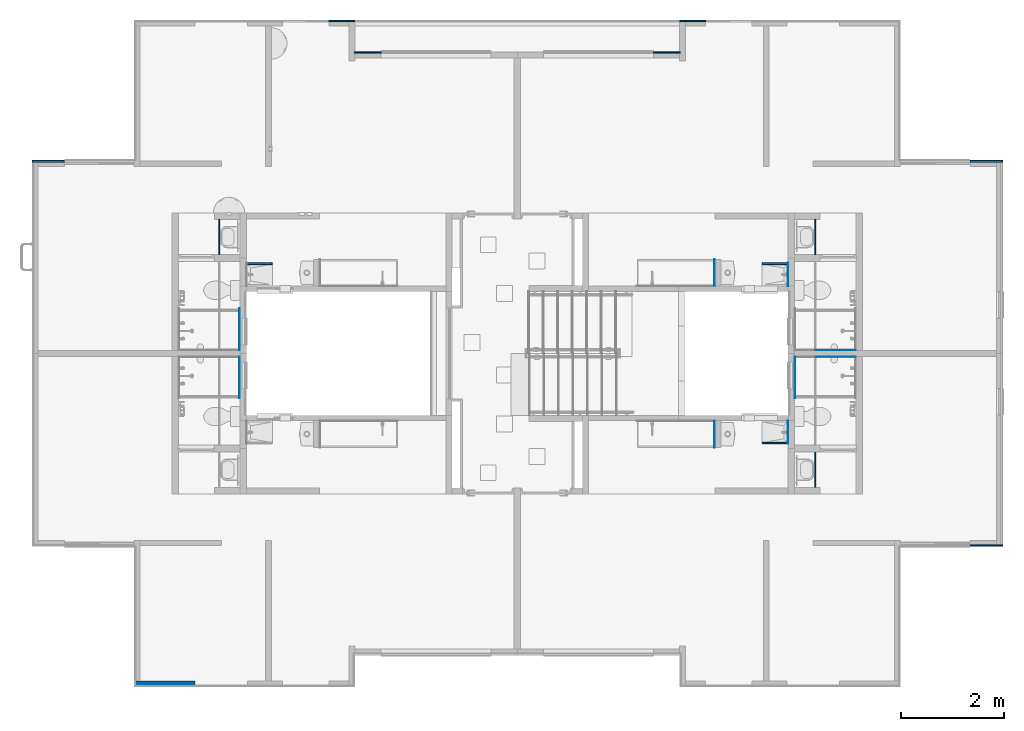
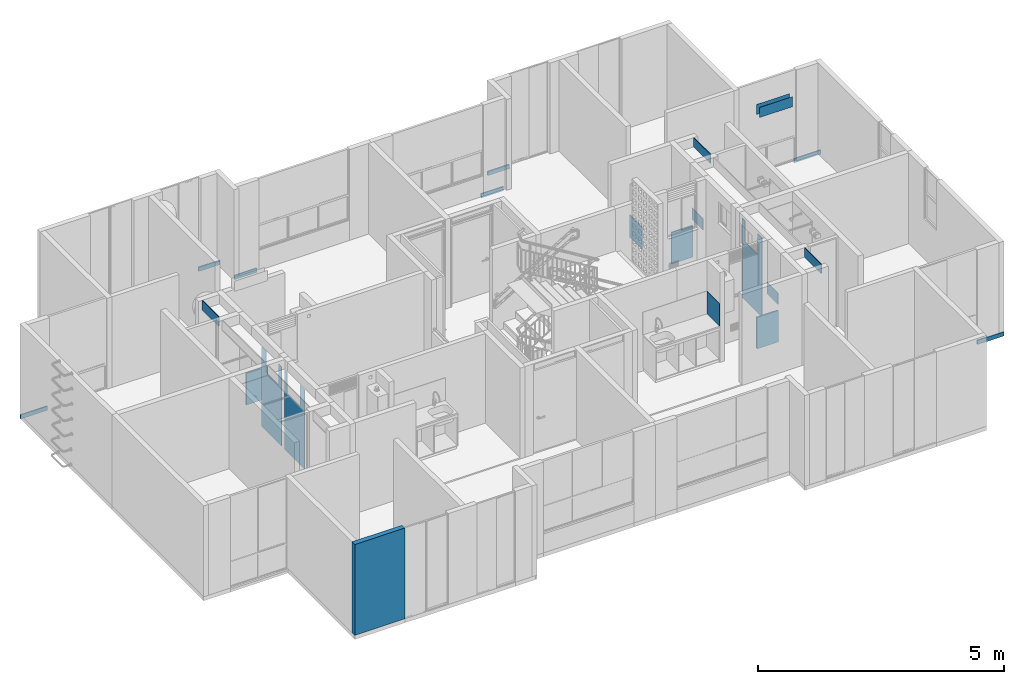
# One storey, part 29 of 51: 23 walls, 4 openings.
"""IFC4 building model written with IfcOpenShell, lengths in metres."""

from ifc_helpers import new_model, entity, si_unit, converted_unit, derived_unit, direction, frame, origin, place, context, subcontext, project, spatial, indexed_curve, outline, extrude, polygons, material, constituent, constituent_set, type_object, element, save


model = new_model("IFC4")

# Units and contexts
model_context = context("Model", 3, precision=1e-05, world=origin(), true_north=direction((6.123031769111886e-17, 1.0)))
body_context = subcontext(model_context, "Body", "Model", "MODEL_VIEW")
ifc_project = project(units=[si_unit("LENGTHUNIT", "METRE"), si_unit("AREAUNIT", "SQUARE_METRE"), si_unit("VOLUMEUNIT", "CUBIC_METRE"), converted_unit("PLANEANGLEUNIT", "DEGREE", entity("IfcRatioMeasure", 0.017453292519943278), si_unit("PLANEANGLEUNIT", "RADIAN"), dimensions=[0, 0, 0, 0, 0, 0, 0]), si_unit("MASSUNIT", "GRAM", prefix="KILO"), derived_unit("MASSDENSITYUNIT", [(si_unit("MASSUNIT", "GRAM", prefix="KILO"), 1), (si_unit("LENGTHUNIT", "METRE"), -3)]), derived_unit("IONCONCENTRATIONUNIT", [(si_unit("MASSUNIT", "GRAM", prefix="KILO"), 1), (si_unit("LENGTHUNIT", "METRE"), -3)]), derived_unit("MOMENTOFINERTIAUNIT", [(si_unit("LENGTHUNIT", "METRE"), 4)]), si_unit("TIMEUNIT", "SECOND"), si_unit("FREQUENCYUNIT", "HERTZ"), si_unit("THERMODYNAMICTEMPERATUREUNIT", "DEGREE_CELSIUS"), derived_unit("THERMALTRANSMITTANCEUNIT", [(si_unit("MASSUNIT", "GRAM", prefix="KILO"), 1), (si_unit("THERMODYNAMICTEMPERATUREUNIT", "KELVIN"), -1), (si_unit("TIMEUNIT", "SECOND"), -3)]), derived_unit("THERMALCONDUCTANCEUNIT", [(si_unit("MASSUNIT", "GRAM", prefix="KILO"), 1), (si_unit("THERMODYNAMICTEMPERATUREUNIT", "KELVIN"), -1), (si_unit("TIMEUNIT", "SECOND"), -3), (si_unit("LENGTHUNIT", "METRE"), 1)]), derived_unit("VOLUMETRICFLOWRATEUNIT", [(si_unit("LENGTHUNIT", "METRE"), 3), (si_unit("TIMEUNIT", "SECOND"), -1)]), derived_unit("MASSFLOWRATEUNIT", [(si_unit("MASSUNIT", "GRAM", prefix="KILO"), 1), (si_unit("TIMEUNIT", "SECOND"), -1)]), derived_unit("ROTATIONALFREQUENCYUNIT", [(si_unit("TIMEUNIT", "SECOND"), -1)]), si_unit("ELECTRICCURRENTUNIT", "AMPERE"), si_unit("ELECTRICVOLTAGEUNIT", "VOLT"), si_unit("POWERUNIT", "WATT"), si_unit("FORCEUNIT", "NEWTON", prefix="KILO"), si_unit("ILLUMINANCEUNIT", "LUX"), si_unit("LUMINOUSFLUXUNIT", "LUMEN"), si_unit("LUMINOUSINTENSITYUNIT", "CANDELA"), derived_unit("USERDEFINED", [(si_unit("MASSUNIT", "GRAM", prefix="KILO"), -1), (si_unit("LENGTHUNIT", "METRE"), -2), (si_unit("TIMEUNIT", "SECOND"), 3), (si_unit("LUMINOUSFLUXUNIT", "LUMEN"), 1)]), derived_unit("USERDEFINED", [(si_unit("MASSUNIT", "GRAM", prefix="KILO"), 1), (si_unit("TIMEUNIT", "SECOND"), -3), (si_unit("LENGTHUNIT", "METRE"), 3), (si_unit("ELECTRICCURRENTUNIT", "AMPERE"), -2)]), derived_unit("SOUNDPOWERUNIT", [(si_unit("MASSUNIT", "GRAM", prefix="KILO"), 1), (si_unit("TIMEUNIT", "SECOND"), -3), (si_unit("LENGTHUNIT", "METRE"), 2)]), derived_unit("SOUNDPRESSUREUNIT", [(si_unit("MASSUNIT", "GRAM", prefix="KILO"), 1), (si_unit("LENGTHUNIT", "METRE"), -1), (si_unit("TIMEUNIT", "SECOND"), -2)]), derived_unit("LINEARVELOCITYUNIT", [(si_unit("LENGTHUNIT", "METRE"), 1), (si_unit("TIMEUNIT", "SECOND"), -1)]), si_unit("PRESSUREUNIT", "PASCAL"), derived_unit("USERDEFINED", [(si_unit("MASSUNIT", "GRAM", prefix="KILO"), 1), (si_unit("LENGTHUNIT", "METRE"), -2), (si_unit("TIMEUNIT", "SECOND"), -2)]), derived_unit("LINEARFORCEUNIT", [(si_unit("MASSUNIT", "GRAM", prefix="KILO"), 1), (si_unit("TIMEUNIT", "SECOND"), -2)]), derived_unit("PLANARFORCEUNIT", [(si_unit("MASSUNIT", "GRAM", prefix="KILO"), 1), (si_unit("LENGTHUNIT", "METRE"), -1), (si_unit("TIMEUNIT", "SECOND"), -2)]), derived_unit("SPECIFICHEATCAPACITYUNIT", [(si_unit("THERMODYNAMICTEMPERATUREUNIT", "KELVIN"), -1), (si_unit("LENGTHUNIT", "METRE"), 2), (si_unit("TIMEUNIT", "SECOND"), -2)]), derived_unit("HEATINGVALUEUNIT", [(si_unit("LENGTHUNIT", "METRE"), 2), (si_unit("TIMEUNIT", "SECOND"), -2)]), derived_unit("VAPORPERMEABILITYUNIT", [(si_unit("LENGTHUNIT", "METRE"), -1), (si_unit("TIMEUNIT", "SECOND"), 1)]), derived_unit("DYNAMICVISCOSITYUNIT", [(si_unit("MASSUNIT", "GRAM", prefix="KILO"), 1), (si_unit("TIMEUNIT", "SECOND"), -1), (si_unit("LENGTHUNIT", "METRE"), -1)]), derived_unit("THERMALEXPANSIONCOEFFICIENTUNIT", [(si_unit("THERMODYNAMICTEMPERATUREUNIT", "KELVIN"), -1)]), derived_unit("MODULUSOFELASTICITYUNIT", [(si_unit("MASSUNIT", "GRAM", prefix="KILO"), 1), (si_unit("LENGTHUNIT", "METRE"), -1), (si_unit("TIMEUNIT", "SECOND"), -2)]), derived_unit("ISOTHERMALMOISTURECAPACITYUNIT", [(si_unit("LENGTHUNIT", "METRE"), 3), (si_unit("MASSUNIT", "GRAM", prefix="KILO"), -1)]), derived_unit("MOISTUREDIFFUSIVITYUNIT", [(si_unit("TIMEUNIT", "SECOND"), -1), (si_unit("LENGTHUNIT", "METRE"), 2)])], contexts=[model_context])

# Site, building, storey
site_placement = place(None, origin())
site = spatial("IfcSite", under=ifc_project, at=site_placement, Name="Default", CompositionType="ELEMENT")
building_placement = place(site_placement, origin())
building = spatial("IfcBuilding", under=site, at=building_placement, CompositionType="ELEMENT")
storey_placement = place(building_placement, frame((0.0, 0.0, 2.350000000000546)))
storey = spatial("IfcBuildingStorey", under=building, at=storey_placement, Name="Nivel 2", CompositionType="ELEMENT", Elevation=2.350000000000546)

# Wall, opening
ifc_material_1 = material(Name="LADRILLO CLARO", Category="Materials")
wall_type_1 = type_object("IfcWallType", Name="Basic Wall:B2010 - 0.115m - ME mampostería no estructural - Ladrillo", PredefinedType="STANDARD")
wall_1_placement = place(storey_placement, frame((3.091699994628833, -12.812500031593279, 0.0), z_axis=(0.0, 0.0, 1.0), x_axis=(-1.0, 0.0, 0.0)))
wall_1 = element("IfcWall", 1, at=wall_1_placement, inside=storey, type_object=wall_type_1, material=ifc_material_1, Name="Basic Wall:B2010 - 0.115m - ME mampostería no estructural - Ladrillo", ObjectType="Basic Wall:B2010 - 0.115m - ME mampostería no estructural - Ladrillo", PredefinedType="NOTDEFINED", context=body_context, shape_type="Tessellation", body=[
    polygons([(1.0862894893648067e-16, -0.057499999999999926, 0.0), (1.1741999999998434, -0.057499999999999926, 0.0), (1.1741999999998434, -0.057499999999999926, 2.2500000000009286), (1.0862894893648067e-16, -0.057499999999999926, 2.2500000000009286), (-5.298817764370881e-16, 0.057499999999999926, 0.0), (-5.298817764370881e-16, 0.057499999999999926, 2.2500000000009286), (1.1741999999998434, 0.057499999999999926, 2.2500000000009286), (1.1741999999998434, 0.057499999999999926, 0.0)], [[[1, 2, 3, 4]], [[5, 6, 7, 8]], [[2, 1, 5, 8]], [[3, 2, 8, 7]], [[4, 3, 7, 6]], [[1, 4, 6, 5]]], closed=True),
])
opening_1_placement = place(wall_1_placement, origin())
element("IfcOpeningElement", 2, at=opening_1_placement, cuts=wall_1, Name="Basic Wall:B2010 - 0.115m - ME mampostería no estructural - Ladrillo", PredefinedType="OPENING", context=body_context, shape_type="SweptSolid", body=[
    extrude(outline(indexed_curve([(-0.5099999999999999, -1.1249999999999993), (0.5099999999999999, -1.1249999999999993), (0.5099999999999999, 1.1249999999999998), (-0.5099999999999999, 1.1249999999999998), (-0.5099999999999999, -1.1249999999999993)], self_intersect=False)), frame((-0.5099999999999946, -1.581499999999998, 1.1250000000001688), z_axis=(0.0, 1.0, 0.0), x_axis=(-1.0, 0.0, 0.0)), (0.0, 0.0, 1.0), 3.048),
])

ifc_material_2 = material(Name="Ceramica 0.25m x 0.35m", Category="Materials")
wall_type_2 = type_object("IfcWallType", Name="Basic Wall:C2010 - 0.25 x 0.35 - Enchape cerámico", PredefinedType="STANDARD")
wall_2_placement = place(storey_placement, frame((3.9574999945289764, -6.365000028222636, 0.03000000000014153), z_axis=(0.0, 0.0, 1.0), x_axis=(0.0, 1.0, 0.0)))
wall_2 = element("IfcWall", 3, at=wall_2_placement, inside=storey, type_object=wall_type_2, material=ifc_material_2, Name="Basic Wall:C2010 - 0.25 x 0.35 - Enchape cerámico", ObjectType="Basic Wall:C2010 - 0.25 x 0.35 - Enchape cerámico", PredefinedType="NOTDEFINED", context=body_context, shape_type="Tessellation", body=[
    polygons([(0.0, -0.0049999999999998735, 5.414335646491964e-16), (0.8099999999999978, -0.00499999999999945, 5.414335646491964e-16), (0.8099999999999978, -0.00499999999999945, 1.9700000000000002), (0.6309543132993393, -0.00500000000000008, 1.9700000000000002), (0.6309543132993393, -0.00500000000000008, 1.4500000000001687), (0.11095431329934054, -0.00499999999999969, 1.4500000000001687), (0.11095431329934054, -0.00499999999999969, 1.9699999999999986), (0.0, -0.0049999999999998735, 1.9699999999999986), (0.0, 0.005000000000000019, 5.414335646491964e-16), (0.0, 0.005000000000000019, 1.9699999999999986), (0.009999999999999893, 0.005000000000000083, 1.969999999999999), (0.11095431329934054, 0.005000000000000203, 1.9699999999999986), (0.11095431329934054, 0.005000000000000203, 1.4500000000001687), (0.6309543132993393, 0.004999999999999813, 1.4500000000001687), (0.6309543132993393, 0.004999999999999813, 1.9700000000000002), (0.8099999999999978, 0.004999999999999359, 1.9700000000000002), (0.8099999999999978, 0.004999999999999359, 5.414335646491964e-16), (0.009999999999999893, 0.005000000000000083, 2.707167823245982e-16)], [[[1, 2, 3, 4, 5, 6, 7, 8]], [[9, 10, 11, 12, 13, 14, 15, 16, 17, 18]], [[2, 1, 9, 18, 17]], [[3, 2, 17, 16]], [[4, 3, 16, 15]], [[5, 4, 15, 14]], [[6, 5, 14, 13]], [[7, 6, 13, 12]], [[8, 7, 12, 11, 10]], [[1, 8, 10, 9]]], closed=True),
])
opening_2_placement = place(wall_2_placement, origin())
element("IfcOpeningElement", 4, at=opening_2_placement, cuts=wall_2, Name="Basic Wall:C2010 - 0.25 x 0.35 - Enchape cerámico", PredefinedType="OPENING", context=body_context, shape_type="SweptSolid", body=[
    extrude(outline(indexed_curve([(-0.2599999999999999, -0.25999999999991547), (0.25999999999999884, -0.25999999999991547), (0.2599999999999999, 0.25999999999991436), (-0.25999999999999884, 0.25999999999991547), (-0.2599999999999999, -0.25999999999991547)], self_intersect=False)), frame((0.3709543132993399, 0.004999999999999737, 1.7100000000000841), z_axis=(0.0, -1.0, 0.0), x_axis=(-1.0, 0.0, 0.0)), (0.0, 0.0, 1.0), 0.01),
])

wall_3_placement = place(storey_placement, frame((3.957499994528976, -6.485000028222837, 0.03000000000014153), z_axis=(0.0, 0.0, 1.0), x_axis=(0.0, -1.0, 0.0)))
wall_3 = element("IfcWall", 5, at=wall_3_placement, inside=storey, type_object=wall_type_2, material=ifc_material_2, Name="Basic Wall:C2010 - 0.25 x 0.35 - Enchape cerámico", ObjectType="Basic Wall:C2010 - 0.25 x 0.35 - Enchape cerámico", PredefinedType="NOTDEFINED", context=body_context, shape_type="Tessellation", body=[
    polygons([(0.0, -0.0049999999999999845, 5.414335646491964e-16), (0.009999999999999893, -0.004999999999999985, 2.707167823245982e-16), (0.8099999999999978, -0.005000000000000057, 5.414335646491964e-16), (0.8099999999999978, -0.005000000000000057, 1.9700000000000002), (0.6309543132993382, -0.00500000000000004, 1.9700000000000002), (0.6309543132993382, -0.00500000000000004, 1.4500000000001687), (0.11095431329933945, -0.004999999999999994, 1.4500000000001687), (0.11095431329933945, -0.004999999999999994, 1.9699999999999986), (0.009999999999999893, -0.004999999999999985, 1.969999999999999), (0.0, -0.0049999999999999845, 1.9699999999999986), (0.0, 0.004999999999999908, 5.414335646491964e-16), (0.0, 0.004999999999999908, 1.9699999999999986), (0.11095431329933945, 0.004999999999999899, 1.9699999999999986), (0.11095431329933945, 0.004999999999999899, 1.4500000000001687), (0.6309543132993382, 0.004999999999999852, 1.4500000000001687), (0.6309543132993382, 0.004999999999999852, 1.9700000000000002), (0.8099999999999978, 0.004999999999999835, 1.9700000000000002), (0.8099999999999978, 0.004999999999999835, 5.414335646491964e-16)], [[[1, 2, 3, 4, 5, 6, 7, 8, 9, 10]], [[11, 12, 13, 14, 15, 16, 17, 18]], [[3, 2, 1, 11, 18]], [[4, 3, 18, 17]], [[5, 4, 17, 16]], [[6, 5, 16, 15]], [[7, 6, 15, 14]], [[8, 7, 14, 13]], [[10, 9, 8, 13, 12]], [[1, 10, 12, 11]]], closed=True),
])
opening_3_placement = place(wall_3_placement, origin())
element("IfcOpeningElement", 6, at=opening_3_placement, cuts=wall_3, Name="Basic Wall:C2010 - 0.25 x 0.35 - Enchape cerámico", PredefinedType="OPENING", context=body_context, shape_type="SweptSolid", body=[
    extrude(outline(indexed_curve([(-0.2599999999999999, -0.25999999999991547), (0.25999999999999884, -0.25999999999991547), (0.2599999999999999, 0.25999999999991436), (-0.25999999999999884, 0.25999999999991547), (-0.2599999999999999, -0.25999999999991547)], self_intersect=False)), frame((0.3709543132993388, 0.004999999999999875, 1.7100000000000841), z_axis=(0.0, -1.0, 0.0), x_axis=(-1.0, 0.0, 0.0)), (0.0, 0.0, 1.0), 0.01),
])

wall_4_placement = place(storey_placement, frame((14.687500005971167, -6.485000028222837, 0.03000000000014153), z_axis=(0.0, 0.0, 1.0), x_axis=(0.0, -1.0, 0.0)))
wall_4 = element("IfcWall", 7, at=wall_4_placement, inside=storey, type_object=wall_type_2, material=ifc_material_2, Name="Basic Wall:C2010 - 0.25 x 0.35 - Enchape cerámico", ObjectType="Basic Wall:C2010 - 0.25 x 0.35 - Enchape cerámico", PredefinedType="NOTDEFINED", context=body_context, shape_type="Tessellation", body=[
    polygons([(0.0, -0.004999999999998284, 5.414335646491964e-16), (0.8099999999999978, -0.004999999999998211, 5.414335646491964e-16), (0.8099999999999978, -0.004999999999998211, 1.9700000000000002), (0.6309543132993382, -0.004999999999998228, 1.9700000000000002), (0.6309543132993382, -0.004999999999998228, 1.4500000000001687), (0.11095431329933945, -0.004999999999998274, 1.4500000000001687), (0.11095431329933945, -0.004999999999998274, 1.9699999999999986), (0.0, -0.004999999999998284, 1.9699999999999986), (0.0, 0.005000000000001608, 5.414335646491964e-16), (0.0, 0.005000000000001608, 1.9699999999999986), (0.009999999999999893, 0.00500000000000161, 1.969999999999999), (0.11095431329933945, 0.005000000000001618, 1.9699999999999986), (0.11095431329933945, 0.005000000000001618, 1.4500000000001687), (0.6309543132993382, 0.005000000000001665, 1.4500000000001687), (0.6309543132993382, 0.005000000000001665, 1.9700000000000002), (0.8099999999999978, 0.005000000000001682, 1.9700000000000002), (0.8099999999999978, 0.005000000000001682, 5.414335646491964e-16), (0.009999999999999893, 0.00500000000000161, 2.707167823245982e-16)], [[[1, 2, 3, 4, 5, 6, 7, 8]], [[9, 10, 11, 12, 13, 14, 15, 16, 17, 18]], [[2, 1, 9, 18, 17]], [[3, 2, 17, 16]], [[4, 3, 16, 15]], [[5, 4, 15, 14]], [[6, 5, 14, 13]], [[7, 6, 13, 12]], [[8, 7, 12, 11, 10]], [[1, 8, 10, 9]]], closed=True),
])
opening_4_placement = place(wall_4_placement, origin())
element("IfcOpeningElement", 8, at=opening_4_placement, cuts=wall_4, Name="Basic Wall:C2010 - 0.25 x 0.35 - Enchape cerámico", PredefinedType="OPENING", context=body_context, shape_type="SweptSolid", body=[
    extrude(outline(indexed_curve([(-0.2599999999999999, -0.25999999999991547), (0.25999999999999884, -0.25999999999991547), (0.2599999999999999, 0.25999999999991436), (-0.25999999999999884, 0.25999999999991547), (-0.2599999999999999, -0.25999999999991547)], self_intersect=False)), frame((0.3709543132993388, 0.005000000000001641, 1.7100000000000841), z_axis=(0.0, -1.0, 0.0), x_axis=(-1.0, 0.0, 0.0)), (0.0, 0.0, 1.0), 0.01),
])

# Walls
ifc_material_3 = material(Name="Plasterboard", Category="Materials")
wall_type_3 = type_object("IfcWallType", Name="Basic Wall:C1070 - 0.02m - Plafón - Drywall", PredefinedType="STANDARD")
wall_5_placement = place(storey_placement, frame((3.5624999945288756, -4.515000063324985, 2.020000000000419), z_axis=(0.0, 0.0, 1.0), x_axis=(0.0, 1.0, 0.0)))
element("IfcWall", 9, at=wall_5_placement, inside=storey, type_object=wall_type_3, material=ifc_material_3, Name="Basic Wall:C1070 - 0.02m - Plafón - Drywall", ObjectType="Basic Wall:C1070 - 0.02m - Plafón - Drywall", PredefinedType="NOTDEFINED", context=body_context, shape_type="SweptSolid", body=[
    extrude(outline(indexed_curve([(0.6800000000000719, 0.009999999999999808), (8.086221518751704e-17, 0.009999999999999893), (-8.086221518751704e-17, -0.009999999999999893), (0.6800000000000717, -0.009999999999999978), (0.6800000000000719, 0.009999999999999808)], self_intersect=False)), origin(), (0.0, 0.0, 1.0), 0.23000000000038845),
])
wall_6_placement = place(storey_placement, frame((15.082500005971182, -4.515000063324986, 2.020000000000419), z_axis=(0.0, 0.0, 1.0), x_axis=(0.0, 1.0, 0.0)))
element("IfcWall", 10, at=wall_6_placement, inside=storey, type_object=wall_type_3, material=ifc_material_3, Name="Basic Wall:C1070 - 0.02m - Plafón - Drywall", ObjectType="Basic Wall:C1070 - 0.02m - Plafón - Drywall", PredefinedType="NOTDEFINED", context=body_context, shape_type="SweptSolid", body=[
    extrude(outline(indexed_curve([(0.6800000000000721, 0.01000000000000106), (-8.086221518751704e-17, 0.009999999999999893), (8.086221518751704e-17, -0.009999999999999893), (0.6800000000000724, -0.009999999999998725), (0.6800000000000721, 0.01000000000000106)], self_intersect=False)), origin(), (0.0, 0.0, 1.0), 0.23000000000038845),
])
wall_7_placement = place(storey_placement, frame((15.082500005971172, -8.334999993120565, 2.020000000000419), z_axis=(0.0, 0.0, 1.0), x_axis=(0.0, -1.0, 0.0)))
element("IfcWall", 11, at=wall_7_placement, inside=storey, type_object=wall_type_3, material=ifc_material_3, Name="Basic Wall:C1070 - 0.02m - Plafón - Drywall", ObjectType="Basic Wall:C1070 - 0.02m - Plafón - Drywall", PredefinedType="NOTDEFINED", context=body_context, shape_type="SweptSolid", body=[
    extrude(outline(indexed_curve([(0.6800000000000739, 0.009999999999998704), (1.74650790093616e-17, 0.009999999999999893), (-1.74650790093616e-17, -0.009999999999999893), (0.6800000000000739, -0.010000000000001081), (0.6800000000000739, 0.009999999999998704)], self_intersect=False)), origin(), (0.0, 0.0, 1.0), 0.23000000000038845),
])
ifc_material_4 = material(Name="Ceramica Salpicadero 0.28m x 0.45m", Category="Materials")
wall_type_4 = type_object("IfcWallType", Name="Basic Wall:C2010 - 0.28 x 0.45 - Salpicadero - Cerámica", PredefinedType="STANDARD")
wall_8_placement = place(storey_placement, frame((14.55250000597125, -4.67500002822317, 0.929999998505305), z_axis=(0.0, 0.0, 1.0), x_axis=(0.0, -1.0, 0.0)))
element("IfcWall", 12, at=wall_8_placement, inside=storey, type_object=wall_type_4, material=ifc_material_4, Name="Basic Wall:C2010 - 0.28 x 0.45 - Salpicadero - Cerámica", ObjectType="Basic Wall:C2010 - 0.28 x 0.45 - Salpicadero - Cerámica", PredefinedType="NOTDEFINED", context=body_context, shape_type="SweptSolid", body=[
    extrude(outline(indexed_curve([(0.4494999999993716, 0.005000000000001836), (8.738326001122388e-17, 0.005000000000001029), (-8.738326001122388e-17, -0.005000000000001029), (0.44949999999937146, -0.005000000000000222), (0.4494999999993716, 0.005000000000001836)], self_intersect=False)), origin(), (0.0, 0.0, 1.0), 0.28000000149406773),
])
wall_9_placement = place(storey_placement, frame((14.55250000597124, -8.175000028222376, 0.929999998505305), z_axis=(0.0, 0.0, 1.0), x_axis=(0.0, 1.0, 0.0)))
element("IfcWall", 13, at=wall_9_placement, inside=storey, type_object=wall_type_4, material=ifc_material_4, Name="Basic Wall:C2010 - 0.28 x 0.45 - Salpicadero - Cerámica", ObjectType="Basic Wall:C2010 - 0.28 x 0.45 - Salpicadero - Cerámica", PredefinedType="NOTDEFINED", context=body_context, shape_type="SweptSolid", body=[
    extrude(outline(indexed_curve([(0.4494999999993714, 0.005000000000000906), (-1.1908182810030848e-16, 0.005000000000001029), (1.1908182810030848e-16, -0.005000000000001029), (0.4494999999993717, -0.005000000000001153), (0.4494999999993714, 0.005000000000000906)], self_intersect=False)), origin(), (0.0, 0.0, 1.0), 0.28000000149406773),
])
wall_10_placement = place(storey_placement, frame((13.13750000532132, -4.605000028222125, 0.9299999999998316), z_axis=(0.0, 0.0, 1.0), x_axis=(0.0, -1.0, 0.0)))
element("IfcWall", 14, at=wall_10_placement, inside=storey, type_object=wall_type_4, material=ifc_material_4, Name="Basic Wall:C2010 - 0.28 x 0.45 - Salpicadero - Cerámica", ObjectType="Basic Wall:C2010 - 0.28 x 0.45 - Salpicadero - Cerámica", PredefinedType="NOTDEFINED", context=body_context, shape_type="SweptSolid", body=[
    extrude(outline(indexed_curve([(0.5100000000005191, 0.0050000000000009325), (2.2179403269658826e-17, 0.005000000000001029), (-2.2179403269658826e-17, -0.005000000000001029), (0.5100000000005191, -0.005000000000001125), (0.5100000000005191, 0.0050000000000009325)], self_intersect=False)), origin(), (0.0, 0.0, 1.0), 0.5599999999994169),
])
wall_11_placement = place(storey_placement, frame((13.137500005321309, -8.245000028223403, 0.9299999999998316), z_axis=(0.0, 0.0, 1.0), x_axis=(0.0, 1.0, 0.0)))
element("IfcWall", 15, at=wall_11_placement, inside=storey, type_object=wall_type_4, material=ifc_material_4, Name="Basic Wall:C2010 - 0.28 x 0.45 - Salpicadero - Cerámica", ObjectType="Basic Wall:C2010 - 0.28 x 0.45 - Salpicadero - Cerámica", PredefinedType="NOTDEFINED", context=body_context, shape_type="SweptSolid", body=[
    extrude(outline(indexed_curve([(0.5100000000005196, 0.00499999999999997), (-5.3311001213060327e-17, 0.005000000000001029), (5.3311001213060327e-17, -0.005000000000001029), (0.5100000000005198, -0.005000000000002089), (0.5100000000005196, 0.00499999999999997)], self_intersect=False)), origin(), (0.0, 0.0, 1.0), 0.5599999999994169),
])
ifc_material_5 = material(Name="Estuco y pintura", Category="Materials")
ifc_constituent_1 = constituent(ifc_material_5, Name="Estuco y pintura", Category="Materials")
ifc_material_6 = material(Name="0 muro divisorio", Category="Materials")
ifc_constituent_2 = constituent(ifc_material_6, Name="0 muro divisorio", Category="Materials")
ifc_constituent_3 = constituent(ifc_material_5, Name="Estuco y pintura (2)", Category="Materials")
ifc_constituent_set = constituent_set(constituents=[ifc_constituent_1, ifc_constituent_2, ifc_constituent_3], Name="Basic Wall:B2010 - 0.03m - Muro interior en estuco+pintura+ concreto+ estuco+ pintura")
wall_type_5 = type_object("IfcWallType", Name="Basic Wall:B2010 - 0.03m - Muro interior en estuco+pintura+ concreto+ estuco+ pintura", PredefinedType="STANDARD", material=ifc_constituent_set)
wall_12_placement = place(storey_placement, frame((4.087499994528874, -4.6920000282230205, 0.0)))
element("IfcWall", 16, at=wall_12_placement, inside=storey, type_object=wall_type_5, material=ifc_constituent_set, Name="Basic Wall:B2010 - 0.03m - Muro interior en estuco+pintura+ concreto+ estuco+ pintura", ObjectType="Basic Wall:B2010 - 0.03m - Muro interior en estuco+pintura+ concreto+ estuco+ pintura", PredefinedType="NOTDEFINED", context=body_context, shape_type="SweptSolid", body=[
    extrude(outline(indexed_curve([(-0.0009999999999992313, -0.25000023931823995), (0.0010000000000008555, -0.25000023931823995), (0.0009999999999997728, 0.2500002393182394), (-0.001000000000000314, 0.2500002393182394), (-0.0009999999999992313, -0.25000023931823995)], self_intersect=False)), frame((0.25000023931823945, -0.016000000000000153, 0.0), z_axis=(0.0, 0.0, 1.0), x_axis=(0.0, 1.0, 0.0)), (0.0, 0.0, 1.0), 0.7799999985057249),
    extrude(outline(indexed_curve([(-0.0009999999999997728, -0.25000023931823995), (0.001000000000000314, -0.25000023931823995), (0.0009999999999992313, 0.2500002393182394), (-0.0010000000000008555, 0.2500002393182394), (-0.0009999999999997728, -0.25000023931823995)], self_intersect=False)), frame((0.25000023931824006, 0.015999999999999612, 0.0), z_axis=(0.0, 0.0, 1.0), x_axis=(0.0, -1.0, 0.0)), (0.0, 0.0, 1.0), 0.7799999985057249),
    extrude(outline(indexed_curve([(-0.25000023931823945, -0.01500000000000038), (0.2500002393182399, -0.01500000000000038), (0.25000023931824, 0.014999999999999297), (-0.2500002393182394, 0.014999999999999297), (-0.25000023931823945, -0.01500000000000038)], self_intersect=False)), frame((0.25000023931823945, 0.0, 0.0)), (0.0, 0.0, 1.0), 0.7799999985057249),
])
wall_13_placement = place(storey_placement, frame((14.557500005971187, -4.6920000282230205, 0.0), z_axis=(0.0, 0.0, 1.0), x_axis=(-1.0, 0.0, 0.0)))
element("IfcWall", 17, at=wall_13_placement, inside=storey, type_object=wall_type_5, material=ifc_constituent_set, Name="Basic Wall:B2010 - 0.03m - Muro interior en estuco+pintura+ concreto+ estuco+ pintura", ObjectType="Basic Wall:B2010 - 0.03m - Muro interior en estuco+pintura+ concreto+ estuco+ pintura", PredefinedType="NOTDEFINED", context=body_context, shape_type="SweptSolid", body=[
    extrude(outline(indexed_curve([(-0.0010000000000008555, -0.25000023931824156), (0.0009999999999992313, -0.25000023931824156), (0.001000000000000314, 0.2500002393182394), (-0.0009999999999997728, 0.2500002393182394), (-0.0010000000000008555, -0.25000023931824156)], self_intersect=False)), frame((0.25000023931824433, 0.015999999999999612, 0.0), z_axis=(0.0, 0.0, 1.0), x_axis=(0.0, -1.0, 0.0)), (0.0, 0.0, 1.0), 0.7799999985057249),
    extrude(outline(indexed_curve([(-0.001000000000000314, -0.25000023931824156), (0.0009999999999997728, -0.25000023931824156), (0.0010000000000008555, 0.25000023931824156), (-0.0009999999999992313, 0.25000023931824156), (-0.001000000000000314, -0.25000023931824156)], self_intersect=False)), frame((0.2500002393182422, -0.016000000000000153, 0.0), z_axis=(0.0, 0.0, 1.0), x_axis=(0.0, 1.0, 0.0)), (0.0, 0.0, 1.0), 0.7799999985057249),
    extrude(outline(indexed_curve([(-0.25000023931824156, -0.01500000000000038), (0.2500002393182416, -0.01500000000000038), (0.25000023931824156, 0.014999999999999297), (-0.25000023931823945, 0.014999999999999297), (-0.25000023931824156, -0.01500000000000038)], self_intersect=False)), frame((0.25000023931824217, 0.0, 0.0)), (0.0, 0.0, 1.0), 0.7799999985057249),
])
wall_14_placement = place(storey_placement, frame((14.557500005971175, -8.158000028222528, 0.0), z_axis=(0.0, 0.0, 1.0), x_axis=(-1.0, 0.0, 0.0)))
element("IfcWall", 18, at=wall_14_placement, inside=storey, type_object=wall_type_5, material=ifc_constituent_set, Name="Basic Wall:B2010 - 0.03m - Muro interior en estuco+pintura+ concreto+ estuco+ pintura", ObjectType="Basic Wall:B2010 - 0.03m - Muro interior en estuco+pintura+ concreto+ estuco+ pintura", PredefinedType="NOTDEFINED", context=body_context, shape_type="SweptSolid", body=[
    extrude(outline(indexed_curve([(-0.0010000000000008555, -0.2500002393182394), (0.0009999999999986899, -0.2500002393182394), (0.0010000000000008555, 0.2500002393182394), (-0.0009999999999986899, 0.2500002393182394), (-0.0010000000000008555, -0.2500002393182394)], self_intersect=False)), frame((0.25000023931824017, -0.015999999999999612, 0.0), z_axis=(0.0, 0.0, 1.0), x_axis=(0.0, 1.0, 0.0)), (0.0, 0.0, 1.0), 0.7799999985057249),
    extrude(outline(indexed_curve([(-0.0010000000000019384, -0.2500002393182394), (0.0009999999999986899, -0.2500002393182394), (0.0010000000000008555, 0.2500002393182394), (-0.0009999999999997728, 0.2500002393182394), (-0.0010000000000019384, -0.2500002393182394)], self_intersect=False)), frame((0.25000023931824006, 0.015999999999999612, 0.0), z_axis=(0.0, 0.0, 1.0), x_axis=(0.0, -1.0, 0.0)), (0.0, 0.0, 1.0), 0.7799999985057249),
    extrude(outline(indexed_curve([(-0.25000023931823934, -0.014999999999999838), (0.25000023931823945, -0.014999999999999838), (0.25000023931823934, 0.014999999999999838), (-0.25000023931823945, 0.014999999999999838), (-0.25000023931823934, -0.014999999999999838)], self_intersect=False)), frame((0.2500002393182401, 0.0, 0.0)), (0.0, 0.0, 1.0), 0.7799999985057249),
])
wall_type_6 = type_object("IfcWallType", Name="Basic Wall:B2010 - 0.03m - ME enchape  no estructural - Ladrillo", PredefinedType="STANDARD")
wall_15_placement = place(storey_placement, frame((6.182499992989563, 0.004999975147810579, -0.10000000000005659), z_axis=(0.0, 0.0, 1.0), x_axis=(-1.0, 0.0, 0.0)))
element("IfcWall", 19, at=wall_15_placement, inside=storey, type_object=wall_type_6, material=ifc_material_1, Name="Basic Wall:B2010 - 0.03m - ME enchape  no estructural - Ladrillo", ObjectType="Basic Wall:B2010 - 0.03m - ME enchape  no estructural - Ladrillo", PredefinedType="NOTDEFINED", context=body_context, shape_type="SweptSolid", body=[
    extrude(outline(indexed_curve([(0.49999999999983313, 0.015000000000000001), (-1.4243869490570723e-16, 0.015), (1.4243869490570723e-16, -0.015), (0.4999999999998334, -0.014999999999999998), (0.49999999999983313, 0.015000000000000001)], self_intersect=False)), origin(), (0.0, 0.0, 1.0), 0.1),
])
wall_16_placement = place(storey_placement, frame((-0.05749999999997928, -2.710000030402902, -0.10000000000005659)))
element("IfcWall", 20, at=wall_16_placement, inside=storey, type_object=wall_type_6, material=ifc_material_1, Name="Basic Wall:B2010 - 0.03m - ME enchape  no estructural - Ladrillo", ObjectType="Basic Wall:B2010 - 0.03m - ME enchape  no estructural - Ladrillo", PredefinedType="NOTDEFINED", context=body_context, shape_type="SweptSolid", body=[
    extrude(outline(indexed_curve([(0.6249999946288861, 0.014999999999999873), (2.443197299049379e-18, 0.014999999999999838), (-2.443197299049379e-18, -0.014999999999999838), (0.6249999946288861, -0.014999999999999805), (0.6249999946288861, 0.014999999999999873)], self_intersect=False)), origin(), (0.0, 0.0, 1.0), 0.1),
])
wall_17_placement = place(storey_placement, frame((12.462499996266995, 0.004999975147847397, -0.10000000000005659)))
element("IfcWall", 21, at=wall_17_placement, inside=storey, type_object=wall_type_6, material=ifc_material_1, Name="Basic Wall:B2010 - 0.03m - ME enchape  no estructural - Ladrillo", ObjectType="Basic Wall:B2010 - 0.03m - ME enchape  no estructural - Ladrillo", PredefinedType="NOTDEFINED", context=body_context, shape_type="SweptSolid", body=[
    extrude(outline(indexed_curve([(0.5000000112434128, 0.015000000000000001), (4.3864338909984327e-17, 0.015), (-4.3864338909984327e-17, -0.015), (0.5000000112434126, -0.015), (0.5000000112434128, 0.015000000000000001)], self_intersect=False)), origin(), (0.0, 0.0, 1.0), 0.1),
])
wall_18_placement = place(storey_placement, frame((18.702500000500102, -2.710000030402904, -0.10000000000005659), z_axis=(0.0, 0.0, 1.0), x_axis=(-1.0, 0.0, 0.0)))
element("IfcWall", 22, at=wall_18_placement, inside=storey, type_object=wall_type_6, material=ifc_material_1, Name="Basic Wall:B2010 - 0.03m - ME enchape  no estructural - Ladrillo", ObjectType="Basic Wall:B2010 - 0.03m - ME enchape  no estructural - Ladrillo", PredefinedType="NOTDEFINED", context=body_context, shape_type="SweptSolid", body=[
    extrude(outline(indexed_curve([(0.624999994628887, 0.014999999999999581), (3.050576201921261e-16, 0.014999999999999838), (-3.050576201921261e-16, -0.014999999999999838), (0.6249999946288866, -0.015000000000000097), (0.624999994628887, 0.014999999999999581)], self_intersect=False)), origin(), (0.0, 0.0, 1.0), 0.1),
])
wall_19_placement = place(storey_placement, frame((18.702500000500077, -10.140000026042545, -0.10000000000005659), z_axis=(0.0, 0.0, 1.0), x_axis=(-1.0, 0.0, 0.0)))
element("IfcWall", 23, at=wall_19_placement, inside=storey, type_object=wall_type_6, material=ifc_material_1, Name="Basic Wall:B2010 - 0.03m - ME enchape  no estructural - Ladrillo", ObjectType="Basic Wall:B2010 - 0.03m - ME enchape  no estructural - Ladrillo", PredefinedType="NOTDEFINED", context=body_context, shape_type="SweptSolid", body=[
    extrude(outline(indexed_curve([(0.6249999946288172, 0.015000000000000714), (-3.068945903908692e-16, 0.015000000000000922), (3.068945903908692e-16, -0.015000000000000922), (0.6249999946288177, -0.015000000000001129), (0.6249999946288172, 0.015000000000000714)], self_intersect=False)), origin(), (0.0, 0.0, 1.0), 0.1),
])
wall_20_placement = place(storey_placement, frame((11.952500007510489, -0.6100000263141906, -0.10000000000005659)))
element("IfcWall", 24, at=wall_20_placement, inside=storey, type_object=wall_type_6, material=ifc_material_1, Name="Basic Wall:B2010 - 0.03m - ME enchape  no estructural - Ladrillo", ObjectType="Basic Wall:B2010 - 0.03m - ME enchape  no estructural - Ladrillo", PredefinedType="NOTDEFINED", context=body_context, shape_type="SweptSolid", body=[
    extrude(outline(indexed_curve([(0.525000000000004, 0.014999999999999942), (-4.746061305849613e-17, 0.014999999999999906), (4.7460613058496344e-17, -0.014999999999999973), (0.5250000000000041, -0.015000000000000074), (0.525000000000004, 0.014999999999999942)], self_intersect=False)), origin(), (0.0, 0.0, 1.0), 0.1),
])
wall_21_placement = place(storey_placement, frame((6.6924999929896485, -0.6100000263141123, -0.10000000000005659), z_axis=(0.0, 0.0, 1.0), x_axis=(-1.0, 0.0, 0.0)))
element("IfcWall", 25, at=wall_21_placement, inside=storey, type_object=wall_type_6, material=ifc_material_1, Name="Basic Wall:B2010 - 0.03m - ME enchape  no estructural - Ladrillo", ObjectType="Basic Wall:B2010 - 0.03m - ME enchape  no estructural - Ladrillo", PredefinedType="NOTDEFINED", context=body_context, shape_type="SweptSolid", body=[
    extrude(outline(indexed_curve([(0.5249999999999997, 0.014999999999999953), (-5.3566291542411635e-17, 0.014999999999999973), (5.356629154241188e-17, -0.015000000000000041), (0.5249999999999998, -0.014999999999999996), (0.5249999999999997, 0.014999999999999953)], self_intersect=False)), origin(), (0.0, 0.0, 1.0), 0.1),
])
ifc_material_7 = material(Name="Repello y pintura", Category="Materials")
wall_type_7 = type_object("IfcWallType", Name="Basic Wall:C2010 - 0.002m - MI acabado de muro- Estuco+ pintura", PredefinedType="STANDARD")
wall_22_placement = place(storey_placement, frame((15.86749894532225, -6.364000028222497, 4.350000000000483), z_axis=(0.0, 0.0, 1.0), x_axis=(-1.0, 0.0, 0.0)))
element("IfcWall", 26, at=wall_22_placement, inside=storey, type_object=wall_type_7, material=ifc_material_7, Name="Basic Wall:C2010 - 0.002m - MI acabado de muro- Estuco+ pintura", ObjectType="Basic Wall:C2010 - 0.002m - MI acabado de muro- Estuco+ pintura", PredefinedType="NOTDEFINED", context=body_context, shape_type="SweptSolid", body=[
    extrude(outline(indexed_curve([(0.7749989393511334, 0.0009999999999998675), (-2.916964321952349e-18, 0.0009999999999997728), (2.916964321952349e-18, -0.0009999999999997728), (0.7749989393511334, -0.0009999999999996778), (0.7749989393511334, 0.0009999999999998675)], self_intersect=False)), origin(), (0.0, 0.0, 1.0), 0.2500000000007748),
])
wall_23_placement = place(storey_placement, frame((15.867498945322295, -6.486000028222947, 4.350000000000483), z_axis=(0.0, 0.0, 1.0), x_axis=(-1.0, 0.0, 0.0)))
element("IfcWall", 27, at=wall_23_placement, inside=storey, type_object=wall_type_7, material=ifc_material_7, Name="Basic Wall:C2010 - 0.002m - MI acabado de muro- Estuco+ pintura", ObjectType="Basic Wall:C2010 - 0.002m - MI acabado de muro- Estuco+ pintura", PredefinedType="NOTDEFINED", context=body_context, shape_type="SweptSolid", body=[
    extrude(outline(indexed_curve([(0.7749989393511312, 0.0009999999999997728), (2.7944996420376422e-18, 0.0009999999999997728), (-2.7944996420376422e-18, -0.0009999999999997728), (0.7749989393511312, -0.0009999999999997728), (0.7749989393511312, 0.0009999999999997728)], self_intersect=False)), origin(), (0.0, 0.0, 1.0), 0.2500000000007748),
])

save(model, "model.ifc")
